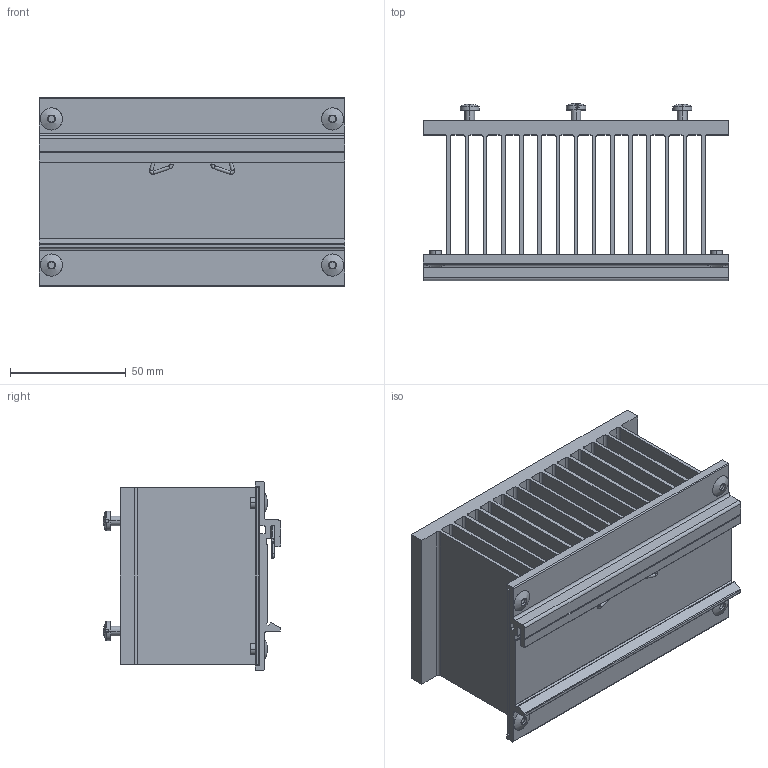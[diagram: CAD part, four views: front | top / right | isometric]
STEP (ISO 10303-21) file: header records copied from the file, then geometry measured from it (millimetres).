
FILE_DESCRIPTION (( 'STEP AP214' ), '1' );
FILE_NAME ('107513.STEP', '2011-07-23T15:25:08', ( 'LALo' ), ( 'Edi Foundation' ), 'SwSTEP 2.0', 'SolidWorks 2011', '' );
FILE_SCHEMA (( 'AUTOMOTIVE_DESIGN' ));
Length unit declared in the file: inch
Products named in the file (1): 107513
Bounding box: 132.08 x 76.75 x 81.8 mm (x, y, z)
Surface area: 180261.7 mm2 (no closed solid volume)
Topology: 0 solids, 551 shells, 596 faces, 2741 edges, 2696 vertices
Faces by surface type: plane 332, cylinder 178, cone 42, bspline 40, torus 4
Entity records: 38316 total; most frequent: CARTESIAN_POINT 16908, DIRECTION 3613, ORIENTED_EDGE 2786, EDGE_CURVE 2741, VERTEX_POINT 2696, VECTOR 1511, LINE 1511, AXIS2_PLACEMENT_3D 1051
